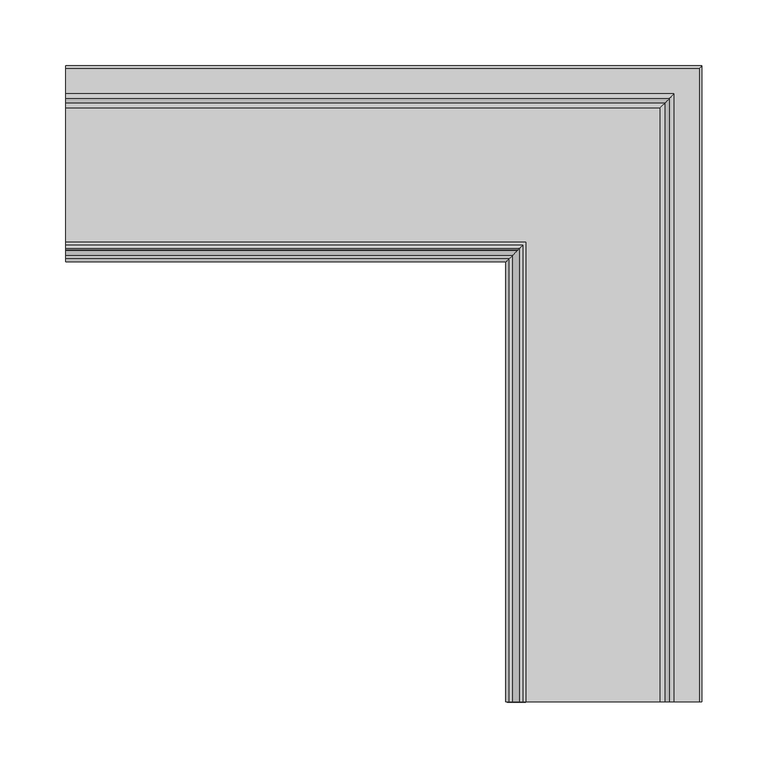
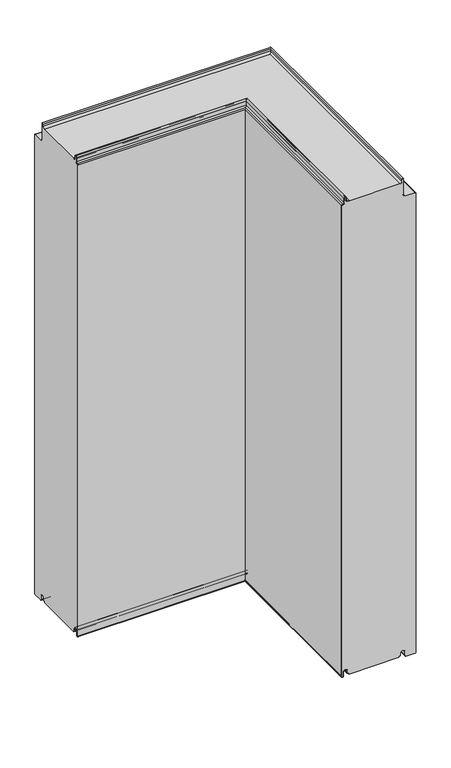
"""IFC4 building model written with IfcOpenShell, lengths in millimetres: plate geometry, Угловой модуль Fronttop : Угловой модуль Fronttop 150/1000."""

from ifc_helpers import new_model, si_unit, frame, origin, place, context, project, spatial, polyline, circle_curve, ellipse_curve, source, transform, mapped, element, save
from ifc_brep_helpers import plane_surface, cylinder_surface, revolved_surface, advanced_brep


def plate_256fc86d(model_context):
    return source(origin(), model_context, "Body", "AdvancedBrep", [
        advanced_brep(
        [(-234.5, 15.0, 3.0), (-234.5, 13.0, 3.0), (-234.5, 12.0, 4.0), (-234.5, 12.0, 8.0), (-234.5, 3.0, 8.0), (-234.5, 3.0, -0.5), (-234.5, 1.0, -0.5), (-234.5, 1.0, 995.0278643), (-234.5, 2.1111111, 996.0216723), (-234.5, 6.0, 999.5), (-234.5, 6.0, 1008.0), (-234.5, 9.0, 1008.0), (-234.5, 9.0, 1004.0), (-234.5, 13.0, 1000.0), (-234.5, 117.0, 1000.0), (-234.5, 121.0, 1004.0), (-234.5, 121.0, 1008.0), (-234.5, 124.0, 1008.0), (-234.5, 124.0, 975.0), (-234.5, 128.0, 971.0), (-234.5, 147.0, 971.0), (-234.5, 149.0, 969.0), (-234.5, 149.0, 0.0), (-234.5, 147.0, -2.0), (-234.5, 129.0, -2.0), (-234.5, 127.0, 0.0), (-234.5, 127.0, 8.0), (-234.5, 118.0, 8.0), (-234.5, 118.0, 4.0), (-234.5, 117.0, 3.0), (-234.5, 115.0, 3.0), (-234.5, 115.0, 0.0), (-234.5, 15.0, 0.0), (115.0, 15.0, 0.0), (115.0, 15.0, 3.0), (215.0, 115.0, 0.0), (215.0, -334.5, 0.0), (115.0, -334.5, 0.0), (215.0, 115.0, 3.0), (217.0, 117.0, 3.0), (217.0, -334.5, 3.0), (215.0, -334.5, 3.0), (218.0, 118.0, 4.0), (218.0, 118.0, 8.0), (227.0, 127.0, 8.0), (227.0, 127.0, 0.0), (229.0, 129.0, -2.0), (247.0, 147.0, -2.0), (247.0, -334.5, -2.0), (229.0, -334.5, -2.0), (249.0, 149.0, 0.0), (249.0, 149.0, 969.0), (247.0, 147.0, 971.0), (228.0, 128.0, 971.0), (228.0, -334.5, 971.0), (247.0, -334.5, 971.0), (224.0, 124.0, 975.0), (224.0, 124.0, 1008.0), (221.0, 121.0, 1008.0), (221.0, 121.0, 1004.0), (217.0, 117.0, 1000.0), (113.0, 13.0, 1000.0), (113.0, -334.5, 1000.0), (217.0, -334.5, 1000.0), (109.0, 9.0, 1004.0), (109.0, 9.0, 1008.0), (106.0, 6.0, 1008.0), (106.0, 6.0, 999.5), (102.1111111, 2.1111111, 996.021672), (101.0, 1.0, 995.0278643), (101.0, 1.0, -0.5), (103.0, 3.0, -0.5), (103.0, 3.0, 8.0), (112.0, 12.0, 8.0), (112.0, 12.0, 4.0), (113.0, 13.0, 3.0), (115.0, -334.5, 3.0), (113.0, -334.5, 3.0), (218.0, -334.5, 4.0), (218.0, -334.5, 8.0), (227.0, -334.5, 8.0), (227.0, -334.5, 0.0), (249.0, -334.5, 0.0), (249.0, -334.5, 969.0), (224.0, -334.5, 975.0), (224.0, -334.5, 1008.0), (221.0, -334.5, 1008.0), (221.0, -334.5, 1004.0), (109.0, -334.5, 1004.0), (109.0, -334.5, 1008.0), (106.0, -334.5, 1008.0), (106.0, -334.5, 999.5), (102.1111111, -334.5, 996.021672), (101.0, -334.5, 995.0278643), (101.0, -334.5, -0.5), (103.0, -334.5, -0.5), (103.0, -334.5, 8.0), (112.0, -334.5, 8.0), (112.0, -334.5, 4.0)],
        [
            (0, 1),
            (1, 2, circle_curve(frame((-234.5, 13.0, 4.0), z_axis=(-1.0, 0.0, 0.0), x_axis=(0.0, -1.0, 0.0)), 1.0)),
            (2, 3),
            (3, 4, circle_curve(frame((-234.5, 7.5, 8.0), z_axis=(1.0, 0.0, 0.0), x_axis=(0.0, -1.0, 0.0)), 4.5)),
            (4, 5),
            (5, 6, circle_curve(frame((-234.5, 2.0, -0.5), z_axis=(-1.0, 0.0, 0.0), x_axis=(0.0, -1.0, 0.0)), 1.0)),
            (6, 7),
            (7, 8, circle_curve(frame((-234.5, 2.0, 995.0278643), z_axis=(-1.0, 0.0, 0.0), x_axis=(0.0, -1.0, 0.0)), 1.0)),
            (8, 9, circle_curve(frame((-234.5, 2.5, 999.5), z_axis=(1.0, 0.0, 0.0), x_axis=(0.0, -1.0, 0.0)), 3.5)),
            (9, 10),
            (10, 11, circle_curve(frame((-234.5, 7.5, 1008.0), z_axis=(-1.0, 0.0, 0.0), x_axis=(0.0, -1.0, 0.0)), 1.5)),
            (11, 12),
            (12, 13, circle_curve(frame((-234.5, 13.0, 1004.0), z_axis=(1.0, 0.0, 0.0), x_axis=(0.0, -1.0, 0.0)), 4.0)),
            (13, 14),
            (14, 15, circle_curve(frame((-234.5, 117.0, 1004.0), z_axis=(1.0, 0.0, 0.0), x_axis=(0.0, -1.0, 0.0)), 4.0)),
            (15, 16),
            (16, 17, circle_curve(frame((-234.5, 122.5, 1008.0), z_axis=(-1.0, 0.0, 0.0), x_axis=(0.0, -1.0, 0.0)), 1.5)),
            (17, 18),
            (18, 19, circle_curve(frame((-234.5, 128.0, 975.0), z_axis=(1.0, 0.0, 0.0), x_axis=(0.0, -1.0, 0.0)), 4.0)),
            (19, 20),
            (20, 21, circle_curve(frame((-234.5, 147.0, 969.0), z_axis=(-1.0, 0.0, 0.0), x_axis=(0.0, -1.0, 0.0)), 2.0)),
            (21, 22),
            (22, 23, circle_curve(frame((-234.5, 147.0, 0.0), z_axis=(-1.0, 0.0, 0.0), x_axis=(0.0, -1.0, 0.0)), 2.0)),
            (23, 24),
            (24, 25, circle_curve(frame((-234.5, 129.0, 0.0), z_axis=(-1.0, 0.0, 0.0), x_axis=(0.0, -1.0, 0.0)), 2.0)),
            (25, 26),
            (26, 27, circle_curve(frame((-234.5, 122.5, 8.0), z_axis=(1.0, 0.0, 0.0), x_axis=(0.0, -1.0, 0.0)), 4.5)),
            (27, 28),
            (28, 29, circle_curve(frame((-234.5, 117.0, 4.0), z_axis=(-1.0, 0.0, 0.0), x_axis=(0.0, -1.0, 0.0)), 1.0)),
            (29, 30),
            (30, 31),
            (31, 32),
            (32, 0),
            (32, 33),
            (33, 34),
            (34, 0),
            (31, 35),
            (35, 36),
            (36, 37),
            (37, 33),
            (30, 38),
            (38, 35),
            (29, 39),
            (39, 40),
            (40, 41),
            (41, 38),
            (28, 42),
            (42, 39, ellipse_curve(frame((217.0, 117.0, 4.0), z_axis=(-0.7071067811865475, 0.7071067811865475, 0.0), x_axis=(-0.7071067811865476, -0.7071067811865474, 0.0)), 1.4142136, 1.0)),
            (27, 43),
            (43, 42),
            (26, 44),
            (44, 43, ellipse_curve(frame((222.5, 122.5, 8.0), z_axis=(0.7071067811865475, -0.7071067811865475, 0.0), x_axis=(0.7071067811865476, 0.7071067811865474, 0.0)), 6.363961, 4.5)),
            (25, 45),
            (45, 44),
            (24, 46),
            (46, 45, ellipse_curve(frame((229.0, 129.0, 0.0), z_axis=(-0.7071067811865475, 0.7071067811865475, 0.0), x_axis=(-0.7071067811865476, -0.7071067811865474, 0.0)), 2.8284271, 2.0)),
            (23, 47),
            (47, 48),
            (48, 49),
            (49, 46),
            (22, 50),
            (50, 47, ellipse_curve(frame((247.0, 147.0, 0.0), z_axis=(-0.7071067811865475, 0.7071067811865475, 0.0), x_axis=(-0.7071067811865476, -0.7071067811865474, 0.0)), 2.8284271, 2.0)),
            (21, 51),
            (51, 50),
            (20, 52),
            (52, 51, ellipse_curve(frame((247.0, 147.0, 969.0), z_axis=(-0.7071067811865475, 0.7071067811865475, 0.0), x_axis=(-0.7071067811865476, -0.7071067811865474, 0.0)), 2.8284271, 2.0)),
            (19, 53),
            (53, 54),
            (54, 55),
            (55, 52),
            (18, 56),
            (56, 53, ellipse_curve(frame((228.0, 128.0, 975.0), z_axis=(0.7071067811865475, -0.7071067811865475, 0.0), x_axis=(0.7071067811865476, 0.7071067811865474, 0.0)), 5.6568542, 4.0)),
            (17, 57),
            (57, 56),
            (16, 58),
            (58, 57, ellipse_curve(frame((222.5, 122.5, 1008.0), z_axis=(-0.7071067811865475, 0.7071067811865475, 0.0), x_axis=(-0.7071067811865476, -0.7071067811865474, 0.0)), 2.1213203, 1.5)),
            (15, 59),
            (59, 58),
            (14, 60),
            (60, 59, ellipse_curve(frame((217.0, 117.0, 1004.0), z_axis=(0.7071067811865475, -0.7071067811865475, 0.0), x_axis=(0.7071067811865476, 0.7071067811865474, 0.0)), 5.6568542, 4.0)),
            (13, 61),
            (61, 62),
            (62, 63),
            (63, 60),
            (12, 64),
            (64, 61, ellipse_curve(frame((113.0, 13.0, 1004.0), z_axis=(0.7071067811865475, -0.7071067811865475, 0.0), x_axis=(0.7071067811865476, 0.7071067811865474, 0.0)), 5.6568542, 4.0)),
            (11, 65),
            (65, 64),
            (10, 66),
            (66, 65, ellipse_curve(frame((107.5, 7.5, 1008.0), z_axis=(-0.7071067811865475, 0.7071067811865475, 0.0), x_axis=(-0.7071067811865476, -0.7071067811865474, 0.0)), 2.1213204, 1.5)),
            (9, 67),
            (67, 66),
            (8, 68),
            (68, 67, ellipse_curve(frame((102.5, 2.5, 999.5), z_axis=(0.7071067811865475, -0.7071067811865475, 0.0), x_axis=(0.7071067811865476, 0.7071067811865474, 0.0)), 4.9497475, 3.5)),
            (7, 69),
            (69, 68, ellipse_curve(frame((102.0, 2.0, 995.0278643), z_axis=(-0.7071067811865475, 0.7071067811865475, 0.0), x_axis=(-0.7071067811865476, -0.7071067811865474, 0.0)), 1.4142136, 1.0)),
            (6, 70),
            (70, 69),
            (5, 71),
            (71, 70, ellipse_curve(frame((102.0, 2.0, -0.5), z_axis=(-0.7071067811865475, 0.7071067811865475, 0.0), x_axis=(-0.7071067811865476, -0.7071067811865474, 0.0)), 1.4142136, 1.0)),
            (4, 72),
            (72, 71),
            (3, 73),
            (73, 72, ellipse_curve(frame((107.5, 7.5, 8.0), z_axis=(0.7071067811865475, -0.7071067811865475, 0.0), x_axis=(0.7071067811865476, 0.7071067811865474, 0.0)), 6.363961, 4.5)),
            (2, 74),
            (74, 73),
            (1, 75),
            (75, 74, ellipse_curve(frame((113.0, 13.0, 4.0), z_axis=(-0.7071067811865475, 0.7071067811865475, 0.0), x_axis=(-0.7071067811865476, -0.7071067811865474, 0.0)), 1.4142136, 1.0)),
            (34, 76),
            (76, 77),
            (77, 75),
            (76, 37),
            (36, 41),
            (40, 78, circle_curve(frame((217.0, -334.5, 4.0), z_axis=(0.0, -1.0, 0.0), x_axis=(-1.0, 0.0, 0.0)), 1.0)),
            (78, 79),
            (79, 80, circle_curve(frame((222.5, -334.5, 8.0), z_axis=(0.0, 1.0, 0.0), x_axis=(-1.0, 0.0, 0.0)), 4.5)),
            (80, 81),
            (81, 49, circle_curve(frame((229.0, -334.5, 0.0), z_axis=(0.0, -1.0, 0.0), x_axis=(-1.0, 0.0, 0.0)), 2.0)),
            (48, 82, circle_curve(frame((247.0, -334.5, 0.0), z_axis=(0.0, -1.0, 0.0), x_axis=(-1.0, 0.0, 0.0)), 2.0)),
            (82, 83),
            (83, 55, circle_curve(frame((247.0, -334.5, 969.0), z_axis=(0.0, -1.0, 0.0), x_axis=(-1.0, 0.0, 0.0)), 2.0)),
            (54, 84, circle_curve(frame((228.0, -334.5, 975.0), z_axis=(0.0, 1.0, 0.0), x_axis=(-1.0, 0.0, 0.0)), 4.0)),
            (84, 85),
            (85, 86, circle_curve(frame((222.5, -334.5, 1008.0), z_axis=(0.0, -1.0, 0.0), x_axis=(-1.0, 0.0, 0.0)), 1.5)),
            (86, 87),
            (87, 63, circle_curve(frame((217.0, -334.5, 1004.0), z_axis=(0.0, 1.0, 0.0), x_axis=(-1.0, 0.0, 0.0)), 4.0)),
            (62, 88, circle_curve(frame((113.0, -334.5, 1004.0), z_axis=(0.0, 1.0, 0.0), x_axis=(-1.0, 0.0, 0.0)), 4.0)),
            (88, 89),
            (89, 90, circle_curve(frame((107.5, -334.5, 1008.0), z_axis=(0.0, -1.0, 0.0), x_axis=(-1.0, 0.0, 0.0)), 1.5)),
            (90, 91),
            (91, 92, circle_curve(frame((102.5, -334.5, 999.5), z_axis=(0.0, 1.0, 0.0), x_axis=(-1.0, 0.0, 0.0)), 3.5)),
            (92, 93, circle_curve(frame((102.0, -334.5, 995.0278643), z_axis=(0.0, -1.0, 0.0), x_axis=(-1.0, 0.0, 0.0)), 1.0)),
            (93, 94),
            (94, 95, circle_curve(frame((102.0, -334.5, -0.5), z_axis=(0.0, -1.0, 0.0), x_axis=(-1.0, 0.0, 0.0)), 1.0)),
            (95, 96),
            (96, 97, circle_curve(frame((107.5, -334.5, 8.0), z_axis=(0.0, 1.0, 0.0), x_axis=(-1.0, 0.0, 0.0)), 4.5)),
            (97, 98),
            (98, 77, circle_curve(frame((113.0, -334.5, 4.0), z_axis=(0.0, -1.0, 0.0), x_axis=(-1.0, 0.0, 0.0)), 1.0)),
            (42, 78),
            (43, 79),
            (44, 80),
            (45, 81),
            (50, 82),
            (51, 83),
            (56, 84),
            (57, 85),
            (58, 86),
            (59, 87),
            (64, 88),
            (65, 89),
            (66, 90),
            (67, 91),
            (68, 92),
            (69, 93),
            (70, 94),
            (71, 95),
            (72, 96),
            (73, 97),
            (74, 98),
        ],
        [
            plane_surface(frame((-234.5, 0.0, 0.0), z_axis=(-1.0, 0.0, 0.0), x_axis=(0.0, 0.0, 1.0))),
            plane_surface(frame((-234.5, 15.0, 0.0), z_axis=(0.0, -1.0, 0.0), x_axis=(1.0, 0.0, 0.0))),
            plane_surface(frame((-234.5, 115.0, 0.0), z_axis=(0.0, 0.0, -1.0), x_axis=(1.0, 0.0, 0.0))),
            plane_surface(frame((-234.5, 115.0, 3.0), z_axis=(0.0, 1.0, 0.0), x_axis=(1.0, 0.0, 0.0))),
            plane_surface(frame((-234.5, 117.0, 3.0), z_axis=(0.0, 0.0, -1.0), x_axis=(1.0, 0.0, 0.0))),
            cylinder_surface(frame((-234.5, 117.0, 4.0), z_axis=(-1.0, 0.0, 0.0), x_axis=(0.0, -1.0, 0.0)), 1.0),
            plane_surface(frame((-234.5, 118.0, 8.0), z_axis=(0.0, 1.0, 0.0), x_axis=(1.0, 0.0, 0.0))),
            revolved_surface(polyline([(227.0, 118.0, 8.0), (-234.5, 118.0, 8.0)]), (-234.5, 122.5, 8.0), (1.0, 0.0, 0.0)),
            plane_surface(frame((-234.5, 127.0, 0.0), z_axis=(0.0, -1.0, 0.0), x_axis=(1.0, 0.0, 0.0))),
            cylinder_surface(frame((-234.5, 129.0, 0.0), z_axis=(-1.0, 0.0, 0.0), x_axis=(0.0, -1.0, 0.0)), 2.0),
            plane_surface(frame((-234.5, 147.0, -2.0), z_axis=(0.0, 0.0, -1.0), x_axis=(1.0, 0.0, 0.0))),
            cylinder_surface(frame((-234.5, 147.0, 0.0), z_axis=(-1.0, 0.0, 0.0), x_axis=(0.0, -1.0, 0.0)), 2.0),
            plane_surface(frame((-234.5, 149.0, 969.0), z_axis=(0.0, 1.0, 0.0), x_axis=(1.0, 0.0, 0.0))),
            cylinder_surface(frame((-234.5, 147.0, 969.0), z_axis=(-1.0, 0.0, 0.0), x_axis=(0.0, -1.0, 0.0)), 2.0),
            plane_surface(frame((-234.5, 128.0, 971.0), z_axis=(0.0, 0.0, 1.0), x_axis=(1.0, 0.0, 0.0))),
            revolved_surface(polyline([(231.9999999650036, 124.0, 975.0), (-234.5, 124.0, 975.0)]), (-234.5, 128.0, 975.0), (1.0, 0.0, 0.0)),
            plane_surface(frame((-234.5, 124.0, 1008.0), z_axis=(0.0, 1.0, 0.0), x_axis=(1.0, 0.0, 0.0))),
            cylinder_surface(frame((-234.5, 122.5, 1008.0), z_axis=(-1.0, 0.0, 0.0), x_axis=(0.0, -1.0, 0.0)), 1.5),
            plane_surface(frame((-234.5, 121.0, 1004.0), z_axis=(0.0, -1.0, 0.0), x_axis=(1.0, 0.0, 0.0))),
            revolved_surface(polyline([(221.0, 113.0, 1004.0), (-234.5, 113.0, 1004.0)]), (-234.5, 117.0, 1004.0), (1.0, 0.0, 0.0)),
            plane_surface(frame((-234.5, 13.0, 1000.0), z_axis=(0.0, 0.0, 1.0), x_axis=(1.0, 0.0, 0.0))),
            revolved_surface(polyline([(116.99999996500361, 9.0, 1004.0), (-234.5, 9.0, 1004.0)]), (-234.5, 13.0, 1004.0), (1.0, 0.0, 0.0)),
            plane_surface(frame((-234.5, 9.0, 1008.0), z_axis=(0.0, 1.0, 0.0), x_axis=(1.0, 0.0, 0.0))),
            cylinder_surface(frame((-234.5, 7.5, 1008.0), z_axis=(-1.0, 0.0, 0.0), x_axis=(0.0, -1.0, 0.0)), 1.5),
            plane_surface(frame((-234.5, 6.0, 999.5), z_axis=(0.0, -1.0, 0.0), x_axis=(1.0, 0.0, 0.0))),
            revolved_surface(polyline([(106.00000002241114, -1.0, 999.5), (-234.5, -1.0, 999.5)]), (-234.5, 2.5, 999.5), (1.0, 0.0, 0.0)),
            cylinder_surface(frame((-234.5, 2.0, 995.0278643), z_axis=(-1.0, 0.0, 0.0), x_axis=(0.0, -1.0, 0.0)), 1.0),
            plane_surface(frame((-234.5, 1.0, -0.5), z_axis=(0.0, -1.0, 0.0), x_axis=(1.0, 0.0, 0.0))),
            cylinder_surface(frame((-234.5, 2.0, -0.5), z_axis=(-1.0, 0.0, 0.0), x_axis=(0.0, -1.0, 0.0)), 1.0),
            plane_surface(frame((-234.5, 3.0, 8.0), z_axis=(0.0, 1.0, 0.0), x_axis=(1.0, 0.0, 0.0))),
            revolved_surface(polyline([(112.0, 3.0, 8.0), (-234.5, 3.0, 8.0)]), (-234.5, 7.5, 8.0), (1.0, 0.0, 0.0)),
            plane_surface(frame((-234.5, 12.0, 4.0), z_axis=(0.0, -1.0, 0.0), x_axis=(1.0, 0.0, 0.0))),
            cylinder_surface(frame((-234.5, 13.0, 4.0), z_axis=(-1.0, 0.0, 0.0), x_axis=(0.0, -1.0, 0.0)), 1.0),
            plane_surface(frame((-234.5, 15.0, 3.0), z_axis=(0.0, 0.0, -1.0), x_axis=(1.0, 0.0, 0.0))),
            plane_surface(frame((100.0, -334.5, 0.0), z_axis=(0.0, -1.0, 0.0), x_axis=(0.0, 0.0, 1.0))),
            plane_surface(frame((115.0, 15.0, 0.0), z_axis=(-1.0, 0.0, 0.0), x_axis=(0.0, -1.0, 0.0))),
            plane_surface(frame((215.0, 115.0, 3.0), z_axis=(1.0, 0.0, 0.0), x_axis=(0.0, -1.0, 0.0))),
            cylinder_surface(frame((217.0, 0.0, 4.0), z_axis=(0.0, 1.0, 0.0), x_axis=(-1.0, 0.0, 0.0)), 1.0),
            plane_surface(frame((218.0, 118.0, 8.0), z_axis=(1.0, 0.0, 0.0), x_axis=(0.0, -1.0, 0.0))),
            revolved_surface(polyline([(218.0, -334.5, 8.0), (218.0, 127.0, 8.0)]), (222.5, 0.0, 8.0), (0.0, -1.0, 0.0)),
            plane_surface(frame((227.0, 127.0, 0.0), z_axis=(-1.0, 0.0, 0.0), x_axis=(0.0, -1.0, 0.0))),
            cylinder_surface(frame((229.0, 0.0, 0.0), z_axis=(0.0, 1.0, 0.0), x_axis=(-1.0, 0.0, 0.0)), 2.0),
            cylinder_surface(frame((247.0, 0.0, 0.0), z_axis=(0.0, 1.0, 0.0), x_axis=(-1.0, 0.0, 0.0)), 2.0),
            plane_surface(frame((249.0, 149.0, 969.0), z_axis=(1.0, 0.0, 0.0), x_axis=(0.0, -1.0, 0.0))),
            cylinder_surface(frame((247.0, 0.0, 969.0), z_axis=(0.0, 1.0, 0.0), x_axis=(-1.0, 0.0, 0.0)), 2.0),
            revolved_surface(polyline([(224.0, -334.5, 975.0), (224.0, 131.9999999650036, 975.0)]), (228.0, 0.0, 975.0), (0.0, -1.0, 0.0)),
            plane_surface(frame((224.0, 124.0, 1008.0), z_axis=(1.0, 0.0, 0.0), x_axis=(0.0, -1.0, 0.0))),
            cylinder_surface(frame((222.5, 0.0, 1008.0), z_axis=(0.0, 1.0, 0.0), x_axis=(-1.0, 0.0, 0.0)), 1.5),
            plane_surface(frame((221.0, 121.0, 1004.0), z_axis=(-1.0, 0.0, 0.0), x_axis=(0.0, -1.0, 0.0))),
            revolved_surface(polyline([(213.0, -334.5, 1004.0), (213.0, 121.0, 1004.0)]), (217.0, 0.0, 1004.0), (0.0, -1.0, 0.0)),
            revolved_surface(polyline([(109.0, -334.5, 1004.0), (109.0, 16.999999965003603, 1004.0)]), (113.0, 0.0, 1004.0), (0.0, -1.0, 0.0)),
            plane_surface(frame((109.0, 9.0, 1008.0), z_axis=(1.0, 0.0, 0.0), x_axis=(0.0, -1.0, 0.0))),
            cylinder_surface(frame((107.5, 0.0, 1008.0), z_axis=(0.0, 1.0, 0.0), x_axis=(-1.0, 0.0, 0.0)), 1.5),
            plane_surface(frame((106.0, 6.0, 999.5), z_axis=(-1.0, 0.0, 0.0), x_axis=(0.0, -1.0, 0.0))),
            revolved_surface(polyline([(99.0, -334.5, 999.5), (99.0, 6.000000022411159, 999.5)]), (102.5, 0.0, 999.5), (0.0, -1.0, 0.0)),
            cylinder_surface(frame((102.0, 0.0, 995.0278643), z_axis=(0.0, 1.0, 0.0), x_axis=(-1.0, 0.0, 0.0)), 1.0),
            plane_surface(frame((101.0, 1.0, -0.5), z_axis=(-1.0, 0.0, 0.0), x_axis=(0.0, -1.0, 0.0))),
            cylinder_surface(frame((102.0, 0.0, -0.5), z_axis=(0.0, 1.0, 0.0), x_axis=(-1.0, 0.0, 0.0)), 1.0),
            plane_surface(frame((103.0, 3.0, 8.0), z_axis=(1.0, 0.0, 0.0), x_axis=(0.0, -1.0, 0.0))),
            revolved_surface(polyline([(103.0, -334.5, 8.0), (103.0, 12.0, 8.0)]), (107.5, 0.0, 8.0), (0.0, -1.0, 0.0)),
            plane_surface(frame((112.0, 12.0, 4.0), z_axis=(-1.0, 0.0, 0.0), x_axis=(0.0, -1.0, 0.0))),
            cylinder_surface(frame((113.0, 0.0, 4.0), z_axis=(0.0, 1.0, 0.0), x_axis=(-1.0, 0.0, 0.0)), 1.0),
        ],
        [
            (0, [[1, 2, 3, 4, 5, 6, 7, 8, 9, 10, 11, 12, 13, 14, 15, 16, 17, 18, 19, 20, 21, 22, 23, 24, 25, 26, 27, 28, 29, 30, 31, 32, 33]]),
            (1, [[-33, 34, 35, 36]]),
            (2, [[-32, 37, 38, 39, 40, -34]]),
            (3, [[-31, 41, 42, -37]]),
            (4, [[-30, 43, 44, 45, 46, -41]]),
            (5, [[-29, 47, 48, -43]]),
            (6, [[-28, 49, 50, -47]]),
            (7, [[-27, 51, 52, -49]]),
            (8, [[-26, 53, 54, -51]]),
            (9, [[-25, 55, 56, -53]]),
            (10, [[-24, 57, 58, 59, 60, -55]]),
            (11, [[-23, 61, 62, -57]]),
            (12, [[-22, 63, 64, -61]]),
            (13, [[-21, 65, 66, -63]]),
            (14, [[-20, 67, 68, 69, 70, -65]]),
            (15, [[-19, 71, 72, -67]]),
            (16, [[-18, 73, 74, -71]]),
            (17, [[-17, 75, 76, -73]]),
            (18, [[-16, 77, 78, -75]]),
            (19, [[-15, 79, 80, -77]]),
            (20, [[-14, 81, 82, 83, 84, -79]]),
            (21, [[-13, 85, 86, -81]]),
            (22, [[-12, 87, 88, -85]]),
            (23, [[-11, 89, 90, -87]]),
            (24, [[-10, 91, 92, -89]]),
            (25, [[-9, 93, 94, -91]]),
            (26, [[-8, 95, 96, -93]]),
            (27, [[-7, 97, 98, -95]]),
            (28, [[-6, 99, 100, -97]]),
            (29, [[-5, 101, 102, -99]]),
            (30, [[-4, 103, 104, -101]]),
            (31, [[-3, 105, 106, -103]]),
            (32, [[-2, 107, 108, -105]]),
            (33, [[-1, -36, 109, 110, 111, -107]]),
            (34, [[112, -39, 113, -45, 114, 115, 116, 117, 118, -59, 119, 120, 121, -69, 122, 123, 124, 125, 126, -83, 127, 128, 129, 130, 131, 132, 133, 134, 135, 136, 137, 138, -110]]),
            (35, [[-35, -40, -112, -109]]),
            (36, [[-42, -46, -113, -38]]),
            (37, [[-48, 139, -114, -44]]),
            (38, [[-50, 140, -115, -139]]),
            (39, [[-52, 141, -116, -140]]),
            (40, [[-54, 142, -117, -141]]),
            (41, [[-56, -60, -118, -142]]),
            (42, [[-62, 143, -119, -58]]),
            (43, [[-64, 144, -120, -143]]),
            (44, [[-66, -70, -121, -144]]),
            (45, [[-72, 145, -122, -68]]),
            (46, [[-74, 146, -123, -145]]),
            (47, [[-76, 147, -124, -146]]),
            (48, [[-78, 148, -125, -147]]),
            (49, [[-80, -84, -126, -148]]),
            (50, [[-86, 149, -127, -82]]),
            (51, [[-88, 150, -128, -149]]),
            (52, [[-90, 151, -129, -150]]),
            (53, [[-92, 152, -130, -151]]),
            (54, [[-94, 153, -131, -152]]),
            (55, [[-96, 154, -132, -153]]),
            (56, [[-98, 155, -133, -154]]),
            (57, [[-100, 156, -134, -155]]),
            (58, [[-102, 157, -135, -156]]),
            (59, [[-104, 158, -136, -157]]),
            (60, [[-106, 159, -137, -158]]),
            (61, [[-108, -111, -138, -159]]),
        ],
    ),
        advanced_brep(
        [(-234.5, 13.0, 1001.0), (-234.5, 15.0, 1001.0), (-234.5, 15.0, 1000.0), (-234.5, 13.0, 1000.0), (-234.5, 9.0, 1004.0), (-234.5, 9.0, 1008.0), (-234.5, 6.0, 1008.0), (-234.5, 6.0, 999.5), (-234.5, 2.1134897, 996.0214069), (-234.5, 1.0, 995.0), (-234.5, 1.0, -0.5), (-234.5, 3.0, -0.5), (-234.5, 3.0, 8.0), (-234.5, 12.0, 8.0), (-234.5, 12.0, 4.0), (-234.5, 13.0, 3.0), (-234.5, 15.0, 3.0), (-234.5, 15.0, 2.0), (-234.5, 13.0, 2.0), (-234.5, 11.0, 4.0), (-234.5, 11.0, 8.0), (-234.5, 4.0, 8.0), (-234.5, 4.0, -0.5), (-234.5, 0.0, -0.5), (-234.5, 0.0, 995.0), (-234.5, 2.220863, 996.9877675), (-234.5, 5.0, 999.5), (-234.5, 5.0, 1008.0), (-234.5, 10.0, 1008.0), (-234.5, 10.0, 1004.0), (113.0, 13.0, 1001.0), (113.0, -334.5, 1001.0), (115.0, -334.5, 1001.0), (115.0, 15.0, 1001.0), (115.0, 15.0, 1000.0), (115.0, -334.5, 1000.0), (113.0, -334.5, 1000.0), (113.0, 13.0, 1000.0), (109.0, 9.0, 1004.0), (109.0, 9.0, 1008.0), (106.0, 6.0, 1008.0), (106.0, 6.0, 999.5), (102.1134897, 2.1134897, 996.0214069), (101.0, 1.0, 995.0), (101.0, 1.0, -0.5), (103.0, 3.0, -0.5), (103.0, 3.0, 8.0), (112.0, 12.0, 8.0), (112.0, 12.0, 4.0), (113.0, 13.0, 3.0), (113.0, -334.5, 3.0), (115.0, -334.5, 3.0), (115.0, 15.0, 3.0), (115.0, 15.0, 2.0), (115.0, -334.5, 2.0), (113.0, -334.5, 2.0), (113.0, 13.0, 2.0), (111.0, 11.0, 4.0), (111.0, 11.0, 8.0), (104.0, 4.0, 8.0), (104.0, 4.0, -0.5), (100.0, 0.0, -0.5), (100.0, 0.0, 995.0), (102.220863, 2.220863, 996.9877675), (105.0, 5.0, 999.5), (105.0, 5.0, 1008.0), (110.0, 10.0, 1008.0), (110.0, 10.0, 1004.0), (110.0, -334.5, 1004.0), (110.0, -334.5, 1008.0), (105.0, -334.5, 1008.0), (105.0, -334.5, 999.5), (102.2239212, -334.5, 997.0152907), (100.0, -334.5, 995.0), (100.0, -334.5, -0.5), (104.0, -334.5, -0.5), (104.0, -334.5, 8.0), (111.0, -334.5, 8.0), (111.0, -334.5, 4.0), (112.0, -334.5, 4.0), (112.0, -334.5, 8.0), (103.0, -334.5, 8.0), (103.0, -334.5, -0.5), (101.0, -334.5, -0.5), (101.0, -334.5, 995.0), (102.1104315, -334.5, 995.9938837), (106.0, -334.5, 999.5), (106.0, -334.5, 1008.0), (109.0, -334.5, 1008.0), (109.0, -334.5, 1004.0)],
        [
            (0, 1),
            (1, 2),
            (2, 3),
            (3, 4, circle_curve(frame((-234.5, 13.0, 1004.0), z_axis=(-1.0, 0.0, 0.0), x_axis=(0.0, -1.0, 0.0)), 4.0)),
            (4, 5),
            (5, 6, circle_curve(frame((-234.5, 7.5, 1008.0), z_axis=(1.0, 0.0, 0.0), x_axis=(0.0, -1.0, 0.0)), 1.5)),
            (6, 7),
            (7, 8, circle_curve(frame((-234.5, 2.5, 999.5), z_axis=(-1.0, 0.0, 0.0), x_axis=(0.0, -1.0, 0.0)), 3.5)),
            (8, 9, circle_curve(frame((-234.5, 2.0, 995.0), z_axis=(1.0, 0.0, 0.0), x_axis=(0.0, -1.0, 0.0)), 1.0)),
            (9, 10),
            (10, 11, circle_curve(frame((-234.5, 2.0, -0.5), z_axis=(1.0, 0.0, 0.0), x_axis=(0.0, -1.0, 0.0)), 1.0)),
            (11, 12),
            (12, 13, circle_curve(frame((-234.5, 7.5, 8.0), z_axis=(-1.0, 0.0, 0.0), x_axis=(0.0, -1.0, 0.0)), 4.5)),
            (13, 14),
            (14, 15, circle_curve(frame((-234.5, 13.0, 4.0), z_axis=(1.0, 0.0, 0.0), x_axis=(0.0, -1.0, 0.0)), 1.0)),
            (15, 16),
            (16, 17),
            (17, 18),
            (18, 19, circle_curve(frame((-234.5, 13.0, 4.0), z_axis=(-1.0, 0.0, 0.0), x_axis=(0.0, -1.0, 0.0)), 2.0)),
            (19, 20),
            (20, 21, circle_curve(frame((-234.5, 7.5, 8.0), z_axis=(1.0, 0.0, 0.0), x_axis=(0.0, -1.0, 0.0)), 3.5)),
            (21, 22),
            (22, 23, circle_curve(frame((-234.5, 2.0, -0.5), z_axis=(-1.0, 0.0, 0.0), x_axis=(0.0, -1.0, 0.0)), 2.0)),
            (23, 24),
            (24, 25, circle_curve(frame((-234.5, 2.0, 995.0), z_axis=(-1.0, 0.0, 0.0), x_axis=(0.0, -1.0, 0.0)), 2.0)),
            (25, 26, circle_curve(frame((-234.5, 2.5, 999.5), z_axis=(1.0, 0.0, 0.0), x_axis=(0.0, -1.0, 0.0)), 2.5)),
            (26, 27),
            (27, 28, circle_curve(frame((-234.5, 7.5, 1008.0), z_axis=(-1.0, 0.0, 0.0), x_axis=(0.0, -1.0, 0.0)), 2.5)),
            (28, 29),
            (29, 0, circle_curve(frame((-234.5, 13.0, 1004.0), z_axis=(1.0, 0.0, 0.0), x_axis=(0.0, -1.0, 0.0)), 3.0)),
            (0, 30),
            (30, 31),
            (31, 32),
            (32, 33),
            (33, 1),
            (33, 34),
            (34, 2),
            (34, 35),
            (35, 36),
            (36, 37),
            (37, 3),
            (37, 38, ellipse_curve(frame((113.0, 13.0, 1004.0), z_axis=(-0.7071067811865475, 0.7071067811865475, 0.0), x_axis=(-0.7071067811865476, -0.7071067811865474, 0.0)), 5.6568542, 4.0)),
            (38, 4),
            (38, 39),
            (39, 5),
            (39, 40, ellipse_curve(frame((107.5, 7.5, 1008.0), z_axis=(0.7071067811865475, -0.7071067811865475, 0.0), x_axis=(0.7071067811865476, 0.7071067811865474, 0.0)), 2.1213204, 1.5)),
            (40, 6),
            (40, 41),
            (41, 7),
            (41, 42, ellipse_curve(frame((102.5, 2.5, 999.5), z_axis=(-0.7071067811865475, 0.7071067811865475, 0.0), x_axis=(-0.7071067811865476, -0.7071067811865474, 0.0)), 4.9497475, 3.5)),
            (42, 8),
            (42, 43, ellipse_curve(frame((102.0, 2.0, 995.0), z_axis=(0.7071067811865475, -0.7071067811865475, 0.0), x_axis=(0.7071067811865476, 0.7071067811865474, 0.0)), 1.4142136, 1.0)),
            (43, 9),
            (43, 44),
            (44, 10),
            (44, 45, ellipse_curve(frame((102.0, 2.0, -0.5), z_axis=(0.7071067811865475, -0.7071067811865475, 0.0), x_axis=(0.7071067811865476, 0.7071067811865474, 0.0)), 1.4142136, 1.0)),
            (45, 11),
            (45, 46),
            (46, 12),
            (46, 47, ellipse_curve(frame((107.5, 7.5, 8.0), z_axis=(-0.7071067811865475, 0.7071067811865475, 0.0), x_axis=(-0.7071067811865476, -0.7071067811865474, 0.0)), 6.363961, 4.5)),
            (47, 13),
            (47, 48),
            (48, 14),
            (48, 49, ellipse_curve(frame((113.0, 13.0, 4.0), z_axis=(0.7071067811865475, -0.7071067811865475, 0.0), x_axis=(0.7071067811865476, 0.7071067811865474, 0.0)), 1.4142136, 1.0)),
            (49, 15),
            (49, 50),
            (50, 51),
            (51, 52),
            (52, 16),
            (52, 53),
            (53, 17),
            (53, 54),
            (54, 55),
            (55, 56),
            (56, 18),
            (56, 57, ellipse_curve(frame((113.0, 13.0, 4.0), z_axis=(-0.7071067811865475, 0.7071067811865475, 0.0), x_axis=(-0.7071067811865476, -0.7071067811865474, 0.0)), 2.8284271, 2.0)),
            (57, 19),
            (57, 58),
            (58, 20),
            (58, 59, ellipse_curve(frame((107.5, 7.5, 8.0), z_axis=(0.7071067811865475, -0.7071067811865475, 0.0), x_axis=(0.7071067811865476, 0.7071067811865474, 0.0)), 4.9497475, 3.5)),
            (59, 21),
            (59, 60),
            (60, 22),
            (60, 61, ellipse_curve(frame((102.0, 2.0, -0.5), z_axis=(-0.7071067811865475, 0.7071067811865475, 0.0), x_axis=(-0.7071067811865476, -0.7071067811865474, 0.0)), 2.8284271, 2.0)),
            (61, 23),
            (61, 62),
            (62, 24),
            (62, 63, ellipse_curve(frame((102.0, 2.0, 995.0), z_axis=(-0.7071067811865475, 0.7071067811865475, 0.0), x_axis=(-0.7071067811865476, -0.7071067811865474, 0.0)), 2.8284271, 2.0)),
            (63, 25),
            (63, 64, ellipse_curve(frame((102.5, 2.5, 999.5), z_axis=(0.7071067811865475, -0.7071067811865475, 0.0), x_axis=(0.7071067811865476, 0.7071067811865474, 0.0)), 3.5355339, 2.5)),
            (64, 26),
            (64, 65),
            (65, 27),
            (65, 66, ellipse_curve(frame((107.5, 7.5, 1008.0), z_axis=(-0.7071067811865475, 0.7071067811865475, 0.0), x_axis=(-0.7071067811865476, -0.7071067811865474, 0.0)), 3.5355339, 2.5)),
            (66, 28),
            (66, 67),
            (67, 29),
            (67, 30, ellipse_curve(frame((113.0, 13.0, 1004.0), z_axis=(0.7071067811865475, -0.7071067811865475, 0.0), x_axis=(0.7071067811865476, 0.7071067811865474, 0.0)), 4.2426407, 3.0)),
            (31, 68, circle_curve(frame((113.0, -334.5, 1004.0), z_axis=(0.0, 1.0, 0.0), x_axis=(-1.0, 0.0, 0.0)), 3.0)),
            (68, 69),
            (69, 70, circle_curve(frame((107.5, -334.5, 1008.0), z_axis=(0.0, -1.0, 0.0), x_axis=(-1.0, 0.0, 0.0)), 2.5)),
            (70, 71),
            (71, 72, circle_curve(frame((102.5, -334.5, 999.5), z_axis=(0.0, 1.0, 0.0), x_axis=(-1.0, 0.0, 0.0)), 2.5)),
            (72, 73, circle_curve(frame((102.0, -334.5, 995.0), z_axis=(0.0, -1.0, 0.0), x_axis=(-1.0, 0.0, 0.0)), 2.0)),
            (73, 74),
            (74, 75, circle_curve(frame((102.0, -334.5, -0.5), z_axis=(0.0, -1.0, 0.0), x_axis=(-1.0, 0.0, 0.0)), 2.0)),
            (75, 76),
            (76, 77, circle_curve(frame((107.5, -334.5, 8.0), z_axis=(0.0, 1.0, 0.0), x_axis=(-1.0, 0.0, 0.0)), 3.5)),
            (77, 78),
            (78, 55, circle_curve(frame((113.0, -334.5, 4.0), z_axis=(0.0, -1.0, 0.0), x_axis=(-1.0, 0.0, 0.0)), 2.0)),
            (54, 51),
            (50, 79, circle_curve(frame((113.0, -334.5, 4.0), z_axis=(0.0, 1.0, 0.0), x_axis=(-1.0, 0.0, 0.0)), 1.0)),
            (79, 80),
            (80, 81, circle_curve(frame((107.5, -334.5, 8.0), z_axis=(0.0, -1.0, 0.0), x_axis=(-1.0, 0.0, 0.0)), 4.5)),
            (81, 82),
            (82, 83, circle_curve(frame((102.0, -334.5, -0.5), z_axis=(0.0, 1.0, 0.0), x_axis=(-1.0, 0.0, 0.0)), 1.0)),
            (83, 84),
            (84, 85, circle_curve(frame((102.0, -334.5, 995.0), z_axis=(0.0, 1.0, 0.0), x_axis=(-1.0, 0.0, 0.0)), 1.0)),
            (85, 86, circle_curve(frame((102.5, -334.5, 999.5), z_axis=(0.0, -1.0, 0.0), x_axis=(-1.0, 0.0, 0.0)), 3.5)),
            (86, 87),
            (87, 88, circle_curve(frame((107.5, -334.5, 1008.0), z_axis=(0.0, 1.0, 0.0), x_axis=(-1.0, 0.0, 0.0)), 1.5)),
            (88, 89),
            (89, 36, circle_curve(frame((113.0, -334.5, 1004.0), z_axis=(0.0, -1.0, 0.0), x_axis=(-1.0, 0.0, 0.0)), 4.0)),
            (35, 32),
            (89, 38),
            (88, 39),
            (87, 40),
            (86, 41),
            (85, 42),
            (84, 43),
            (83, 44),
            (82, 45),
            (81, 46),
            (80, 47),
            (79, 48),
            (78, 57),
            (77, 58),
            (76, 59),
            (75, 60),
            (74, 61),
            (73, 62),
            (72, 63),
            (71, 64),
            (70, 65),
            (69, 66),
            (68, 67),
        ],
        [
            plane_surface(frame((-234.5, 0.0, 0.0), z_axis=(-1.0, 0.0, 0.0), x_axis=(0.0, 0.0, 1.0))),
            plane_surface(frame((-234.5, 13.0, 1001.0), z_axis=(0.0, 0.0, 1.0), x_axis=(1.0, 0.0, 0.0))),
            plane_surface(frame((-234.5, 15.0, 1001.0), z_axis=(0.0, 1.0, 0.0), x_axis=(1.0, 0.0, 0.0))),
            plane_surface(frame((-234.5, 15.0, 1000.0), z_axis=(0.0, 0.0, -1.0), x_axis=(1.0, 0.0, 0.0))),
            cylinder_surface(frame((-234.5, 13.0, 1004.0), z_axis=(-1.0, 0.0, 0.0), x_axis=(0.0, -1.0, 0.0)), 4.0),
            plane_surface(frame((-234.5, 9.0, 1004.0), z_axis=(0.0, -1.0, 0.0), x_axis=(1.0, 0.0, 0.0))),
            revolved_surface(polyline([(109.00000003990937, 6.0, 1008.0), (-234.5, 6.0, 1008.0)]), (-234.5, 7.5, 1008.0), (1.0, 0.0, 0.0)),
            plane_surface(frame((-234.5, 6.0, 1008.0), z_axis=(0.0, 1.0, 0.0), x_axis=(1.0, 0.0, 0.0))),
            cylinder_surface(frame((-234.5, 2.5, 999.5), z_axis=(-1.0, 0.0, 0.0), x_axis=(0.0, -1.0, 0.0)), 3.5),
            revolved_surface(polyline([(103.00000002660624, 1.0, 995.0), (-234.5, 1.0, 995.0)]), (-234.5, 2.0, 995.0), (1.0, 0.0, 0.0)),
            plane_surface(frame((-234.5, 1.0, 995.0), z_axis=(0.0, 1.0, 0.0), x_axis=(1.0, 0.0, 0.0))),
            revolved_surface(polyline([(103.00000002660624, 1.0, -0.5), (-234.5, 1.0, -0.5)]), (-234.5, 2.0, -0.5), (1.0, 0.0, 0.0)),
            plane_surface(frame((-234.5, 3.0, -0.5), z_axis=(0.0, -1.0, 0.0), x_axis=(1.0, 0.0, 0.0))),
            cylinder_surface(frame((-234.5, 7.5, 8.0), z_axis=(-1.0, 0.0, 0.0), x_axis=(0.0, -1.0, 0.0)), 4.5),
            plane_surface(frame((-234.5, 12.0, 8.0), z_axis=(0.0, 1.0, 0.0), x_axis=(1.0, 0.0, 0.0))),
            revolved_surface(polyline([(114.00000002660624, 12.0, 4.0), (-234.5, 12.0, 4.0)]), (-234.5, 13.0, 4.0), (1.0, 0.0, 0.0)),
            plane_surface(frame((-234.5, 13.0, 3.0), z_axis=(0.0, 0.0, 1.0), x_axis=(1.0, 0.0, 0.0))),
            plane_surface(frame((-234.5, 15.0, 3.0), z_axis=(0.0, 1.0, 0.0), x_axis=(1.0, 0.0, 0.0))),
            plane_surface(frame((-234.5, 15.0, 2.0), z_axis=(0.0, 0.0, -1.0), x_axis=(1.0, 0.0, 0.0))),
            cylinder_surface(frame((-234.5, 13.0, 4.0), z_axis=(-1.0, 0.0, 0.0), x_axis=(0.0, -1.0, 0.0)), 2.0),
            plane_surface(frame((-234.5, 11.0, 4.0), z_axis=(0.0, -1.0, 0.0), x_axis=(1.0, 0.0, 0.0))),
            revolved_surface(polyline([(111.00000002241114, 4.0, 8.0), (-234.5, 4.0, 8.0)]), (-234.5, 7.5, 8.0), (1.0, 0.0, 0.0)),
            plane_surface(frame((-234.5, 4.0, 8.0), z_axis=(0.0, 1.0, 0.0), x_axis=(1.0, 0.0, 0.0))),
            cylinder_surface(frame((-234.5, 2.0, -0.5), z_axis=(-1.0, 0.0, 0.0), x_axis=(0.0, -1.0, 0.0)), 2.0),
            plane_surface(frame((-234.5, 0.0, -0.5), z_axis=(0.0, -1.0, 0.0), x_axis=(1.0, 0.0, 0.0))),
            cylinder_surface(frame((-234.5, 2.0, 995.0), z_axis=(-1.0, 0.0, 0.0), x_axis=(0.0, -1.0, 0.0)), 2.0),
            revolved_surface(polyline([(105.0, 0.0, 999.5), (-234.5, 0.0, 999.5)]), (-234.5, 2.5, 999.5), (1.0, 0.0, 0.0)),
            plane_surface(frame((-234.5, 5.0, 999.5), z_axis=(0.0, -1.0, 0.0), x_axis=(1.0, 0.0, 0.0))),
            cylinder_surface(frame((-234.5, 7.5, 1008.0), z_axis=(-1.0, 0.0, 0.0), x_axis=(0.0, -1.0, 0.0)), 2.5),
            plane_surface(frame((-234.5, 10.0, 1008.0), z_axis=(0.0, 1.0, 0.0), x_axis=(1.0, 0.0, 0.0))),
            revolved_surface(polyline([(116.00000000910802, 10.0, 1004.0), (-234.5, 10.0, 1004.0)]), (-234.5, 13.0, 1004.0), (1.0, 0.0, 0.0)),
            plane_surface(frame((100.0, -334.5, 0.0), z_axis=(0.0, -1.0, 0.0), x_axis=(0.0, 0.0, 1.0))),
            plane_surface(frame((115.0, 15.0, 1001.0), z_axis=(1.0, 0.0, 0.0), x_axis=(0.0, -1.0, 0.0))),
            cylinder_surface(frame((113.0, 0.0, 1004.0), z_axis=(0.0, 1.0, 0.0), x_axis=(-1.0, 0.0, 0.0)), 4.0),
            plane_surface(frame((109.0, 9.0, 1004.0), z_axis=(-1.0, 0.0, 0.0), x_axis=(0.0, -1.0, 0.0))),
            revolved_surface(polyline([(106.0, -334.5, 1008.0), (106.0, 9.00000003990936, 1008.0)]), (107.5, 0.0, 1008.0), (0.0, -1.0, 0.0)),
            plane_surface(frame((106.0, 6.0, 1008.0), z_axis=(1.0, 0.0, 0.0), x_axis=(0.0, -1.0, 0.0))),
            cylinder_surface(frame((102.5, 0.0, 999.5), z_axis=(0.0, 1.0, 0.0), x_axis=(-1.0, 0.0, 0.0)), 3.5),
            revolved_surface(polyline([(101.0, -334.5, 995.0), (101.0, 3.0000000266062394, 995.0)]), (102.0, 0.0, 995.0), (0.0, -1.0, 0.0)),
            plane_surface(frame((101.0, 1.0, 995.0), z_axis=(1.0, 0.0, 0.0), x_axis=(0.0, -1.0, 0.0))),
            revolved_surface(polyline([(101.0, -334.5, -0.5), (101.0, 3.0000000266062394, -0.5)]), (102.0, 0.0, -0.5), (0.0, -1.0, 0.0)),
            plane_surface(frame((103.0, 3.0, -0.5), z_axis=(-1.0, 0.0, 0.0), x_axis=(0.0, -1.0, 0.0))),
            cylinder_surface(frame((107.5, 0.0, 8.0), z_axis=(0.0, 1.0, 0.0), x_axis=(-1.0, 0.0, 0.0)), 4.5),
            plane_surface(frame((112.0, 12.0, 8.0), z_axis=(1.0, 0.0, 0.0), x_axis=(0.0, -1.0, 0.0))),
            revolved_surface(polyline([(112.0, -334.5, 4.0), (112.0, 14.000000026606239, 4.0)]), (113.0, 0.0, 4.0), (0.0, -1.0, 0.0)),
            plane_surface(frame((115.0, 15.0, 3.0), z_axis=(1.0, 0.0, 0.0), x_axis=(0.0, -1.0, 0.0))),
            cylinder_surface(frame((113.0, 0.0, 4.0), z_axis=(0.0, 1.0, 0.0), x_axis=(-1.0, 0.0, 0.0)), 2.0),
            plane_surface(frame((111.0, 11.0, 4.0), z_axis=(-1.0, 0.0, 0.0), x_axis=(0.0, -1.0, 0.0))),
            revolved_surface(polyline([(104.0, -334.5, 8.0), (104.0, 11.00000002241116, 8.0)]), (107.5, 0.0, 8.0), (0.0, -1.0, 0.0)),
            plane_surface(frame((104.0, 4.0, 8.0), z_axis=(1.0, 0.0, 0.0), x_axis=(0.0, -1.0, 0.0))),
            cylinder_surface(frame((102.0, 0.0, -0.5), z_axis=(0.0, 1.0, 0.0), x_axis=(-1.0, 0.0, 0.0)), 2.0),
            plane_surface(frame((100.0, 0.0, -0.5), z_axis=(-1.0, 0.0, 0.0), x_axis=(0.0, -1.0, 0.0))),
            cylinder_surface(frame((102.0, 0.0, 995.0), z_axis=(0.0, 1.0, 0.0), x_axis=(-1.0, 0.0, 0.0)), 2.0),
            revolved_surface(polyline([(100.0, -334.5, 999.5), (100.0, 5.0, 999.5)]), (102.5, 0.0, 999.5), (0.0, -1.0, 0.0)),
            plane_surface(frame((105.0, 5.0, 999.5), z_axis=(-1.0, 0.0, 0.0), x_axis=(0.0, -1.0, 0.0))),
            cylinder_surface(frame((107.5, 0.0, 1008.0), z_axis=(0.0, 1.0, 0.0), x_axis=(-1.0, 0.0, 0.0)), 2.5),
            plane_surface(frame((110.0, 10.0, 1008.0), z_axis=(1.0, 0.0, 0.0), x_axis=(0.0, -1.0, 0.0))),
            revolved_surface(polyline([(110.0, -334.5, 1004.0), (110.0, 16.00000000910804, 1004.0)]), (113.0, 0.0, 1004.0), (0.0, -1.0, 0.0)),
        ],
        [
            (0, [[1, 2, 3, 4, 5, 6, 7, 8, 9, 10, 11, 12, 13, 14, 15, 16, 17, 18, 19, 20, 21, 22, 23, 24, 25, 26, 27, 28, 29, 30]]),
            (1, [[-1, 31, 32, 33, 34, 35]]),
            (2, [[-2, -35, 36, 37]]),
            (3, [[-3, -37, 38, 39, 40, 41]]),
            (4, [[-4, -41, 42, 43]]),
            (5, [[-5, -43, 44, 45]]),
            (6, [[-6, -45, 46, 47]]),
            (7, [[-7, -47, 48, 49]]),
            (8, [[-8, -49, 50, 51]]),
            (9, [[-9, -51, 52, 53]]),
            (10, [[-10, -53, 54, 55]]),
            (11, [[-11, -55, 56, 57]]),
            (12, [[-12, -57, 58, 59]]),
            (13, [[-13, -59, 60, 61]]),
            (14, [[-14, -61, 62, 63]]),
            (15, [[-15, -63, 64, 65]]),
            (16, [[-16, -65, 66, 67, 68, 69]]),
            (17, [[-17, -69, 70, 71]]),
            (18, [[-18, -71, 72, 73, 74, 75]]),
            (19, [[-19, -75, 76, 77]]),
            (20, [[-20, -77, 78, 79]]),
            (21, [[-21, -79, 80, 81]]),
            (22, [[-22, -81, 82, 83]]),
            (23, [[-23, -83, 84, 85]]),
            (24, [[-24, -85, 86, 87]]),
            (25, [[-25, -87, 88, 89]]),
            (26, [[-26, -89, 90, 91]]),
            (27, [[-27, -91, 92, 93]]),
            (28, [[-28, -93, 94, 95]]),
            (29, [[-29, -95, 96, 97]]),
            (30, [[-30, -97, 98, -31]]),
            (31, [[99, 100, 101, 102, 103, 104, 105, 106, 107, 108, 109, 110, -73, 111, -67, 112, 113, 114, 115, 116, 117, 118, 119, 120, 121, 122, 123, -39, 124, -33]]),
            (32, [[-36, -34, -124, -38]]),
            (33, [[-42, -40, -123, 125]]),
            (34, [[-44, -125, -122, 126]]),
            (35, [[-46, -126, -121, 127]]),
            (36, [[-48, -127, -120, 128]]),
            (37, [[-50, -128, -119, 129]]),
            (38, [[-52, -129, -118, 130]]),
            (39, [[-54, -130, -117, 131]]),
            (40, [[-56, -131, -116, 132]]),
            (41, [[-58, -132, -115, 133]]),
            (42, [[-60, -133, -114, 134]]),
            (43, [[-62, -134, -113, 135]]),
            (44, [[-64, -135, -112, -66]]),
            (45, [[-70, -68, -111, -72]]),
            (46, [[-76, -74, -110, 136]]),
            (47, [[-78, -136, -109, 137]]),
            (48, [[-80, -137, -108, 138]]),
            (49, [[-82, -138, -107, 139]]),
            (50, [[-84, -139, -106, 140]]),
            (51, [[-86, -140, -105, 141]]),
            (52, [[-88, -141, -104, 142]]),
            (53, [[-90, -142, -103, 143]]),
            (54, [[-92, -143, -102, 144]]),
            (55, [[-94, -144, -101, 145]]),
            (56, [[-96, -145, -100, 146]]),
            (57, [[-98, -146, -99, -32]]),
        ],
    ),
    ])


if __name__ == "__main__":
    model = new_model("IFC4")
    model_context = context("Model", 3, world=origin())
    ifc_project = project(units=[si_unit("LENGTHUNIT", "METRE", prefix="MILLI")], contexts=[model_context])
    site = spatial("IfcSite", under=ifc_project)
    building = spatial("IfcBuilding", under=site)
    placement = place(None, origin())
    plate_shape = plate_256fc86d(model_context)
    element("IfcPlate", 1, ObjectType="Угловой модуль Fronttop : Угловой модуль Fronttop 150/1000", at=placement, inside=building, context=model_context, shape_type="MappedRepresentation", body=[
        mapped(plate_shape, transform((0.0, 0.0, 0.0), x_axis=(1.0, 0.0, 0.0), y_axis=(0.0, 1.0, 0.0), z_axis=(0.0, 0.0, 1.0))),
    ])
    save(model, "model.ifc")
